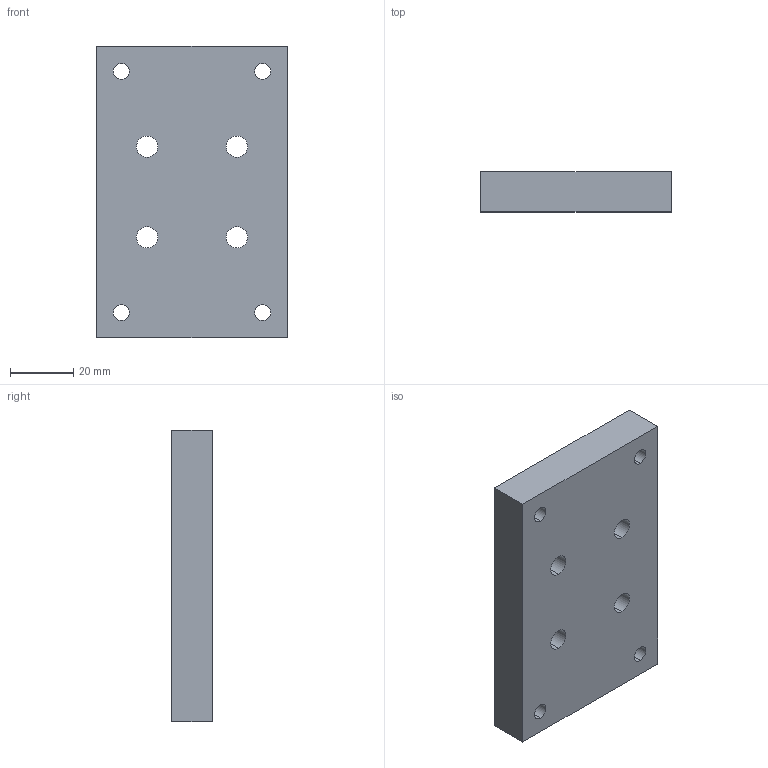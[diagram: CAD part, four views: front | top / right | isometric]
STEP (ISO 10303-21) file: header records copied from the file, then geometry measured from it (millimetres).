
FILE_DESCRIPTION (( 'STEP AP214' ), '1' );
FILE_NAME ('H030012100.STEP', '2014-02-11T16:07:22', ( 'Eric_Werenskjold' ), ( '' ), 'SwSTEP 2.0', 'SolidWorks 2014', '' );
FILE_SCHEMA (( 'AUTOMOTIVE_DESIGN' ));
Length unit declared in the file: inch
Products named in the file (1): H030012100
Bounding box: 60.45 x 12.7 x 92.2 mm (x, y, z)
Volume: 66373.1 mm3; surface area: 16815.1 mm2
Topology: 1 solids, 1 shells, 34 faces, 84 edges, 56 vertices
Faces by surface type: cylinder 24, plane 10
Entity records: 1212 total; most frequent: DIRECTION 202, CARTESIAN_POINT 175, ORIENTED_EDGE 168, EDGE_CURVE 84, AXIS2_PLACEMENT_3D 83, VERTEX_POINT 56, EDGE_LOOP 54, CIRCLE 48
